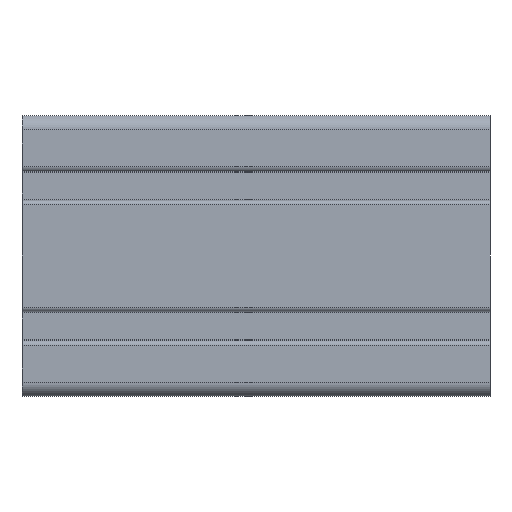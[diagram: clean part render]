
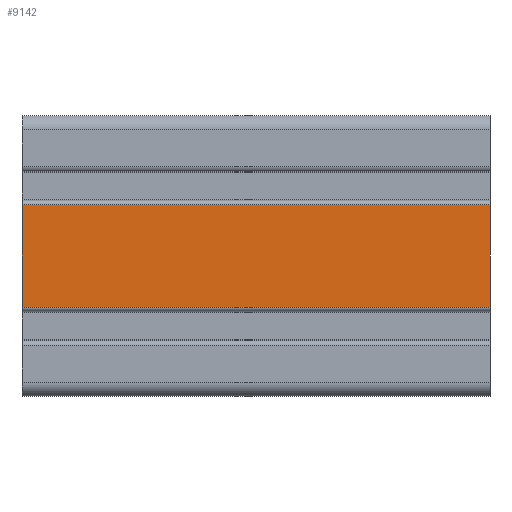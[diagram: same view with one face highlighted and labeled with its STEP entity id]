
A CAD part, left-side view. The second image highlights one B-rep face of the part: STEP entity #9142.
In plain terms, the highlighted planar face has unit normal (-1, 0, 0).
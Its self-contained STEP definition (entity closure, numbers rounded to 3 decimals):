
#730 = DIRECTION ( 'NONE',  ( 0., 0., -1. ) ) ;
#918 = ORIENTED_EDGE ( 'NONE', *, *, #5028, .F. ) ;
#970 = PLANE ( 'NONE',  #7545 ) ;
#1209 = DIRECTION ( 'NONE',  ( 0., 0., 1. ) ) ;
#1443 = CARTESIAN_POINT ( 'NONE',  ( -30., -50., 10.9 ) ) ;
#1510 = VERTEX_POINT ( 'NONE', #4383 ) ;
#1772 = LINE ( 'NONE', #2684, #3922 ) ;
#1946 = ORIENTED_EDGE ( 'NONE', *, *, #6527, .T. ) ;
#2684 = CARTESIAN_POINT ( 'NONE',  ( -30., 50., 10.9 ) ) ;
#3135 = LINE ( 'NONE', #9117, #5565 ) ;
#3431 = DIRECTION ( 'NONE',  ( 0., -1., 0. ) ) ;
#3819 = VERTEX_POINT ( 'NONE', #10963 ) ;
#3922 = VECTOR ( 'NONE', #3431, 1000. ) ;
#4383 = CARTESIAN_POINT ( 'NONE',  ( -30., -50., -10.9 ) ) ;
#4457 = CARTESIAN_POINT ( 'NONE',  ( -30., 50., -10.9 ) ) ;
#4820 = LINE ( 'NONE', #7483, #11011 ) ;
#5028 = EDGE_CURVE ( 'NONE', #3819, #8121, #4820, .T. ) ;
#5302 = FACE_OUTER_BOUND ( 'NONE', #5762, .T. ) ;
#5322 = ORIENTED_EDGE ( 'NONE', *, *, #9070, .F. ) ;
#5565 = VECTOR ( 'NONE', #5803, 1000. ) ;
#5762 = EDGE_LOOP ( 'NONE', ( #8622, #5322, #918, #1946 ) ) ;
#5803 = DIRECTION ( 'NONE',  ( 0., -1., 0. ) ) ;
#6058 = VERTEX_POINT ( 'NONE', #1443 ) ;
#6527 = EDGE_CURVE ( 'NONE', #3819, #1510, #3135, .T. ) ;
#6916 = LINE ( 'NONE', #10409, #8458 ) ;
#7483 = CARTESIAN_POINT ( 'NONE',  ( -30., 50., -10.9 ) ) ;
#7545 = AXIS2_PLACEMENT_3D ( 'NONE', #4457, #11115, #730 ) ;
#8121 = VERTEX_POINT ( 'NONE', #8247 ) ;
#8247 = CARTESIAN_POINT ( 'NONE',  ( -30., 50., 10.9 ) ) ;
#8458 = VECTOR ( 'NONE', #1209, 1000. ) ;
#8622 = ORIENTED_EDGE ( 'NONE', *, *, #8779, .T. ) ;
#8779 = EDGE_CURVE ( 'NONE', #1510, #6058, #6916, .T. ) ;
#9070 = EDGE_CURVE ( 'NONE', #8121, #6058, #1772, .T. ) ;
#9117 = CARTESIAN_POINT ( 'NONE',  ( -30., 50., -10.9 ) ) ;
#9142 = ADVANCED_FACE ( 'NONE', ( #5302 ), #970, .F. ) ;
#9265 = DIRECTION ( 'NONE',  ( 0., 0., 1. ) ) ;
#10409 = CARTESIAN_POINT ( 'NONE',  ( -30., -50., -10.9 ) ) ;
#10963 = CARTESIAN_POINT ( 'NONE',  ( -30., 50., -10.9 ) ) ;
#11011 = VECTOR ( 'NONE', #9265, 1000. ) ;
#11115 = DIRECTION ( 'NONE',  ( 1., 0., 0. ) ) ;
